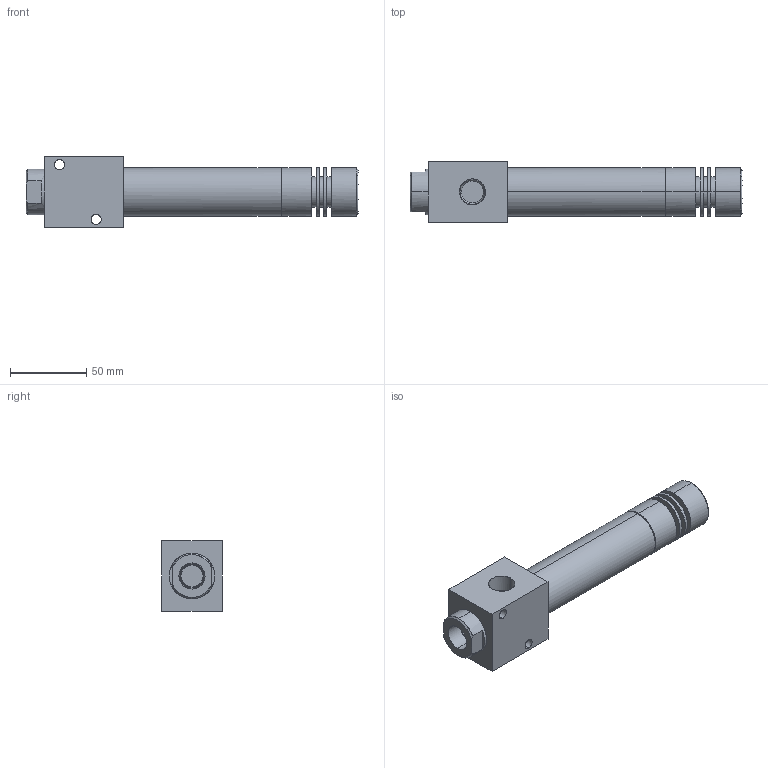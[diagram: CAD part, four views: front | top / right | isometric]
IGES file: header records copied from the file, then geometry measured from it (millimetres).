
Global section: file name: E:\UnigraphicsGraphicData\MISUMI_PRESS-PARTS\IGES\3d_pajc450_04936_r00.igs; native system: NX V5.0; preprocessor: UGS NX IGES V5.0; author: MISUMI; date: 20110105.162217; units: millimetre
Bounding box: 218 x 40 x 46 mm (x, y, z)
Surface area: 38059.4 mm2 (no closed solid volume)
Topology: 0 solids, 0 shells, 100 faces, 828 edges, 828 vertices
Faces by surface type: bspline 100
